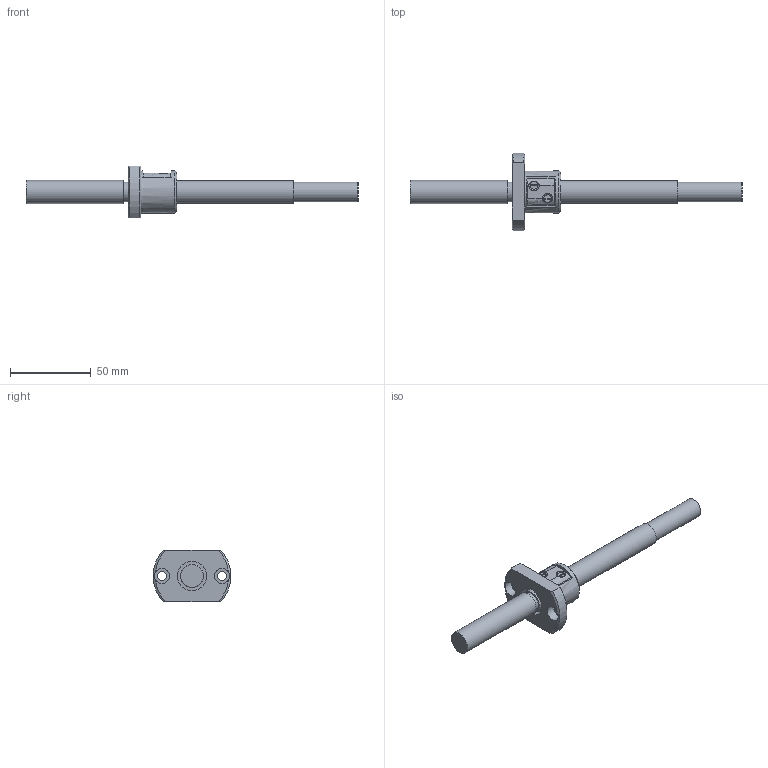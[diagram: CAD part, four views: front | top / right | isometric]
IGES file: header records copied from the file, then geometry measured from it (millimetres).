
Start section: Data from Parasolid IGES Translator 26.0.171, Copyright(c) 2006 Siemens PLM Software. All Rights Reserved.
Global section: file name: MBF1402-3.7RRGT+205LC3A(0).igs; native system: By Siemens PLM Incorporated; preprocessor: XPlus GENERIC/IGES 26.0.171; author: Noname; organization: Noname; date: 20240715.080337; units: millimetre
Bounding box: 205 x 47.84 x 32 mm (x, y, z)
Surface area: 16481.7 mm2 (no closed solid volume)
Topology: 0 solids, 0 shells, 67 faces, 340 edges, 322 vertices
Faces by surface type: extrusion 34, revolution 33
